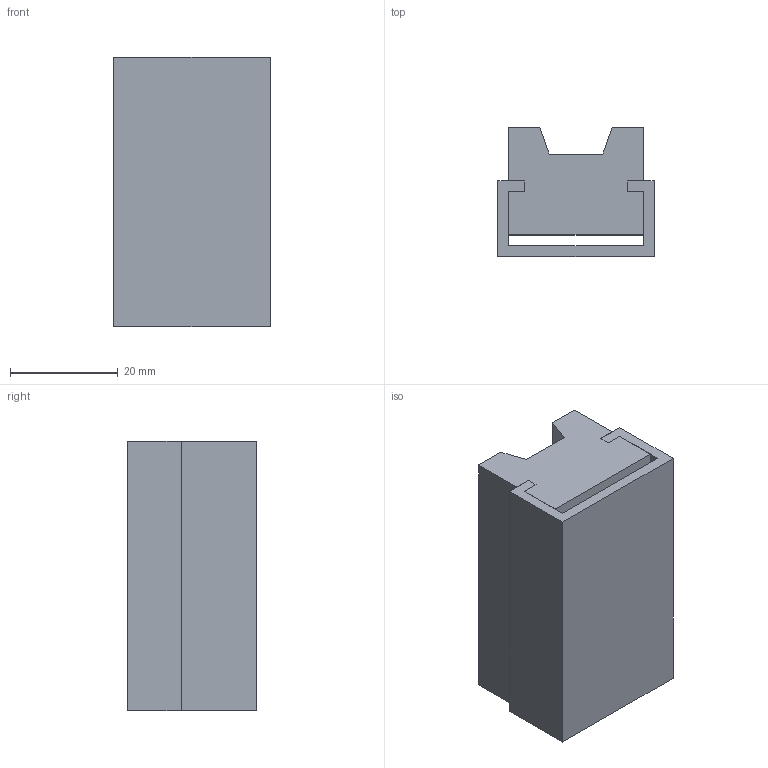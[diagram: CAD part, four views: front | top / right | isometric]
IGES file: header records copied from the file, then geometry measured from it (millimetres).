
Start section: SolidWorks IGES file using analytic representation for surfaces
Global section: file name: C:\Documents and Settings\ARGE\Desktop\yeni katalog tolgay düzenli\E kataloðu\ALPOLEN 1000 ÇELÝK PROFÝLLÝ V KAYIÞ KLAVUZLARI\207 VC0 006.IGS; native system: SolidWorks 2006 by SolidWorks Corporation; preprocessor: SolidWorks 2006 by SolidWorks Corporation; author: ARGE2; date: 060912.173747; units: millimetre
Bounding box: 29 x 24 x 50 mm (x, y, z)
Surface area: 12651.4 mm2 (no closed solid volume)
Topology: 0 solids, 0 shells, 32 faces, 168 edges, 168 vertices
Faces by surface type: bspline 32
